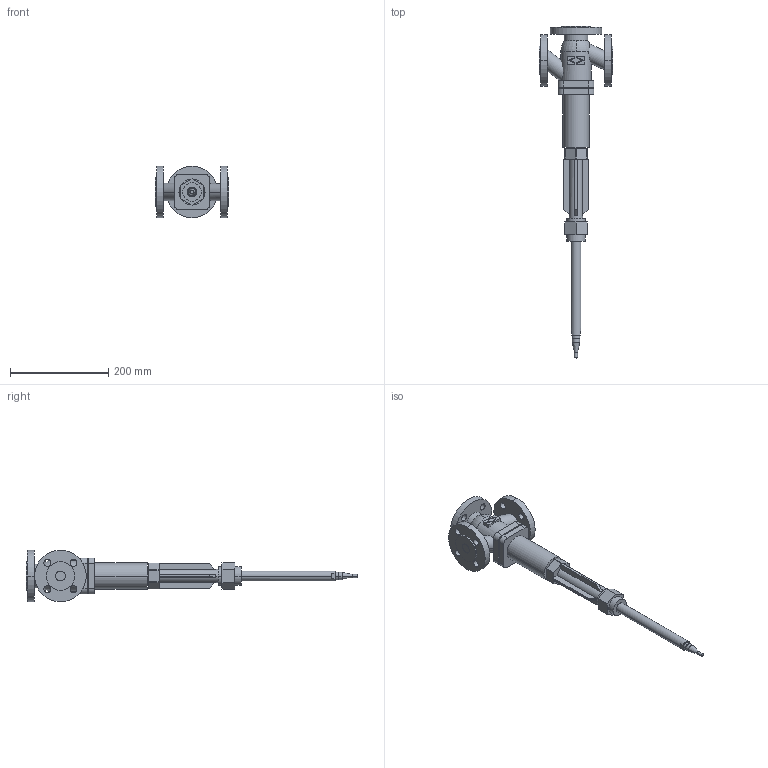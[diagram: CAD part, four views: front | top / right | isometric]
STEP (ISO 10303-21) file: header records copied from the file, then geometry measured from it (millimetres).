
FILE_DESCRIPTION(('CoCreate Modeling STEP Export'),'2;1');
FILE_NAME('c000004785.stp','2011-09-23T10:21:06',(''),(''),'CoCreate Modeling STEP processor for AP214 (Solid Model)','CoCreate Modeling 17.0 01-Apr-2010 (C) Parametric Technology GmbH','');
FILE_SCHEMA(('AUTOMOTIVE_DESIGN { 1 0 10303 214 1 1 1 1 }'));
Length unit declared in the file: millimetre
Products named in the file (1): 1
Bounding box: 150 x 675.44 x 105 mm (x, y, z)
Volume: 1339216.7 mm3; surface area: 177788.7 mm2
Topology: 1 solids, 1 shells, 186 faces, 461 edges, 301 vertices
Faces by surface type: cylinder 88, plane 88, cone 8, torus 2
Entity records: 6655 total; most frequent: CARTESIAN_POINT 989, ORIENTED_EDGE 922, DIRECTION 784, EDGE_CURVE 461, VERTEX_POINT 301, AXIS2_PLACEMENT_3D 270, VECTOR 244, LINE 244
